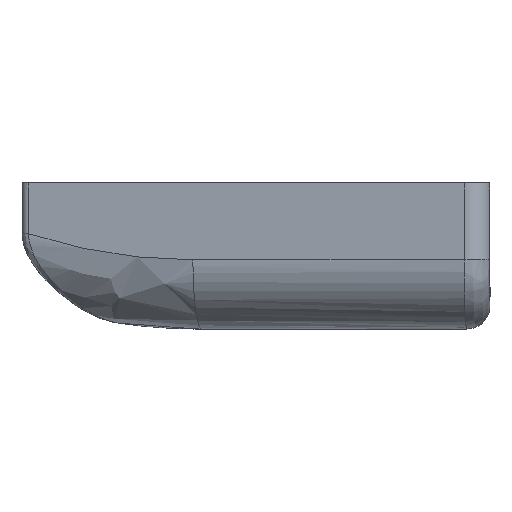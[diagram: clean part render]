
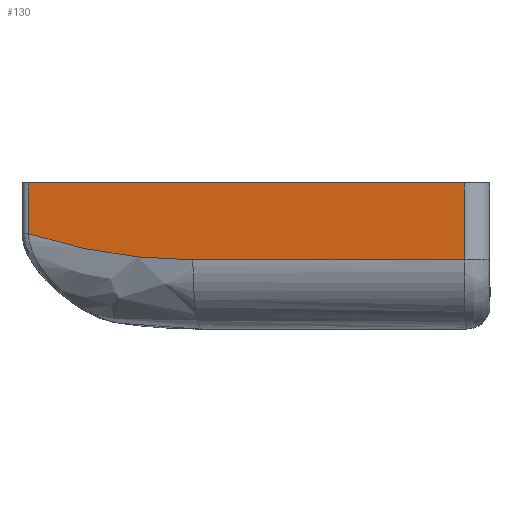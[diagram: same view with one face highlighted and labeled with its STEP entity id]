
A CAD part, left-side view. The second image highlights one B-rep face of the part: STEP entity #130.
In plain terms, the highlighted free-form (B-spline) face has degree [2, 1] with [3, 2] control points.
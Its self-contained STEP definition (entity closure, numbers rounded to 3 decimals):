
#130=ADVANCED_FACE('',(#294),#2483,.T.);
#294=FACE_OUTER_BOUND('',#472,.T.);
#472=EDGE_LOOP('',(#922,#923,#924,#925,#926));
#922=ORIENTED_EDGE('',*,*,#1574,.T.);
#923=ORIENTED_EDGE('',*,*,#1575,.T.);
#924=ORIENTED_EDGE('',*,*,#1634,.T.);
#925=ORIENTED_EDGE('',*,*,#1576,.T.);
#926=ORIENTED_EDGE('',*,*,#1577,.F.);
#1574=EDGE_CURVE('',#2349,#2356,#1926,.T.);
#1575=EDGE_CURVE('',#2356,#2357,#1927,.T.);
#1576=EDGE_CURVE('',#2358,#2343,#1928,.T.);
#1577=EDGE_CURVE('',#2349,#2343,#1929,.T.);
#1634=EDGE_CURVE('',#2357,#2358,#1951,.T.);
#1926=B_SPLINE_CURVE_WITH_KNOTS('',2,(#4979,#4980,#4981),.UNSPECIFIED.,
 .F.,.F.,(3,3),(581.696,638.746),.UNSPECIFIED.);
#1927=B_SPLINE_CURVE_WITH_KNOTS('',1,(#4982,#4983),.UNSPECIFIED.,.F.,.F.,
(2,2),(0.,6.613),.UNSPECIFIED.);
#1928=B_SPLINE_CURVE_WITH_KNOTS('',2,(#4984,#4985,#4986),.UNSPECIFIED.,
 .F.,.F.,(3,3),(-38.929,-3.401),.UNSPECIFIED.);
#1929=B_SPLINE_CURVE_WITH_KNOTS('',1,(#4987,#4988),.UNSPECIFIED.,.F.,.F.,
(2,2),(0.,10.),.UNSPECIFIED.);
#1951=B_SPLINE_CURVE_WITH_KNOTS('',3,(#5297,#5298,#5299,#5300,#5301,#5302),
 .UNSPECIFIED.,.F.,.F.,(4,2,4),(4.572,12.947,26.448),
 .UNSPECIFIED.);
#2343=VERTEX_POINT('',#4273);
#2349=VERTEX_POINT('',#4279);
#2356=VERTEX_POINT('',#4286);
#2357=VERTEX_POINT('',#4287);
#2358=VERTEX_POINT('',#4288);
#2483=B_SPLINE_SURFACE_WITH_KNOTS('',2,1,((#3254,#3255),(#3256,#3257),(#3258,
#3259)),.UNSPECIFIED.,.F.,.F.,.F.,(3,3),(2,2),(578.294,646.327),
(0.,20.),.UNSPECIFIED.);
#3254=CARTESIAN_POINT('',(-84.,-67.5,0.));
#3255=CARTESIAN_POINT('',(-84.,-67.5,-20.));
#3256=CARTESIAN_POINT('',(-79.75,-33.75,0.));
#3257=CARTESIAN_POINT('',(-79.75,-33.75,-20.));
#3258=CARTESIAN_POINT('',(-75.5,0.,0.));
#3259=CARTESIAN_POINT('',(-75.5,0.,-20.));
#4273=CARTESIAN_POINT('',(-83.575,-64.125,-10.));
#4279=CARTESIAN_POINT('',(-83.575,-64.125,0.));
#4286=CARTESIAN_POINT('',(-76.447,-7.522,0.));
#4287=CARTESIAN_POINT('',(-76.447,-7.522,-6.613));
#4288=CARTESIAN_POINT('',(-79.136,-28.876,-10.));
#4979=CARTESIAN_POINT('',(-83.575,-64.125,0.));
#4980=CARTESIAN_POINT('',(-80.011,-35.823,0.));
#4981=CARTESIAN_POINT('',(-76.447,-7.522,0.));
#4982=CARTESIAN_POINT('',(-76.447,-7.522,0.));
#4983=CARTESIAN_POINT('',(-76.447,-7.522,-6.613));
#4984=CARTESIAN_POINT('',(-79.136,-28.876,-10.));
#4985=CARTESIAN_POINT('',(-81.356,-46.5,-10.));
#4986=CARTESIAN_POINT('',(-83.575,-64.125,-10.));
#4987=CARTESIAN_POINT('',(-83.575,-64.125,0.));
#4988=CARTESIAN_POINT('',(-83.575,-64.125,-10.));
#5297=CARTESIAN_POINT('',(-76.447,-7.522,-6.613));
#5298=CARTESIAN_POINT('',(-76.779,-10.158,-7.47));
#5299=CARTESIAN_POINT('',(-77.117,-12.845,-8.169));
#5300=CARTESIAN_POINT('',(-78.012,-19.946,-9.565));
#5301=CARTESIAN_POINT('',(-78.574,-24.411,-10.));
#5302=CARTESIAN_POINT('',(-79.136,-28.876,-10.));
